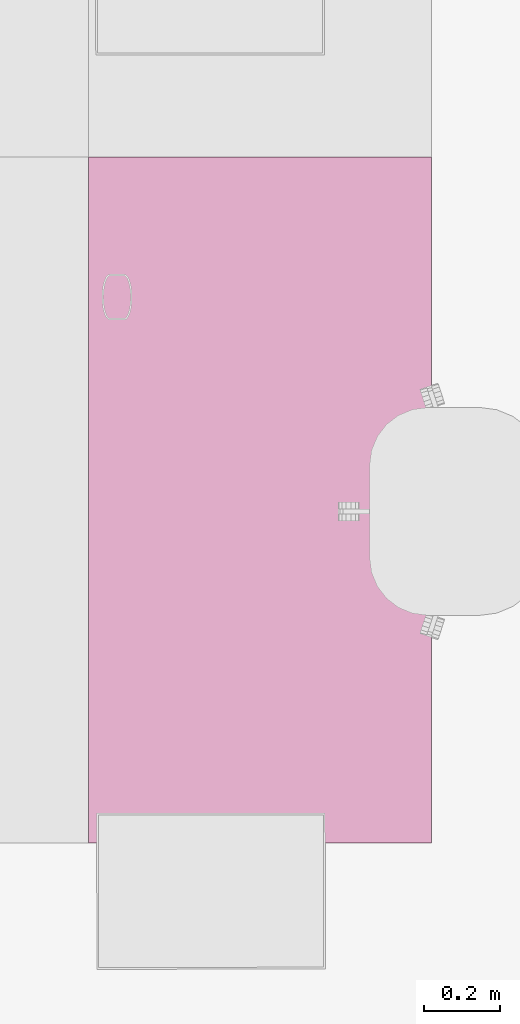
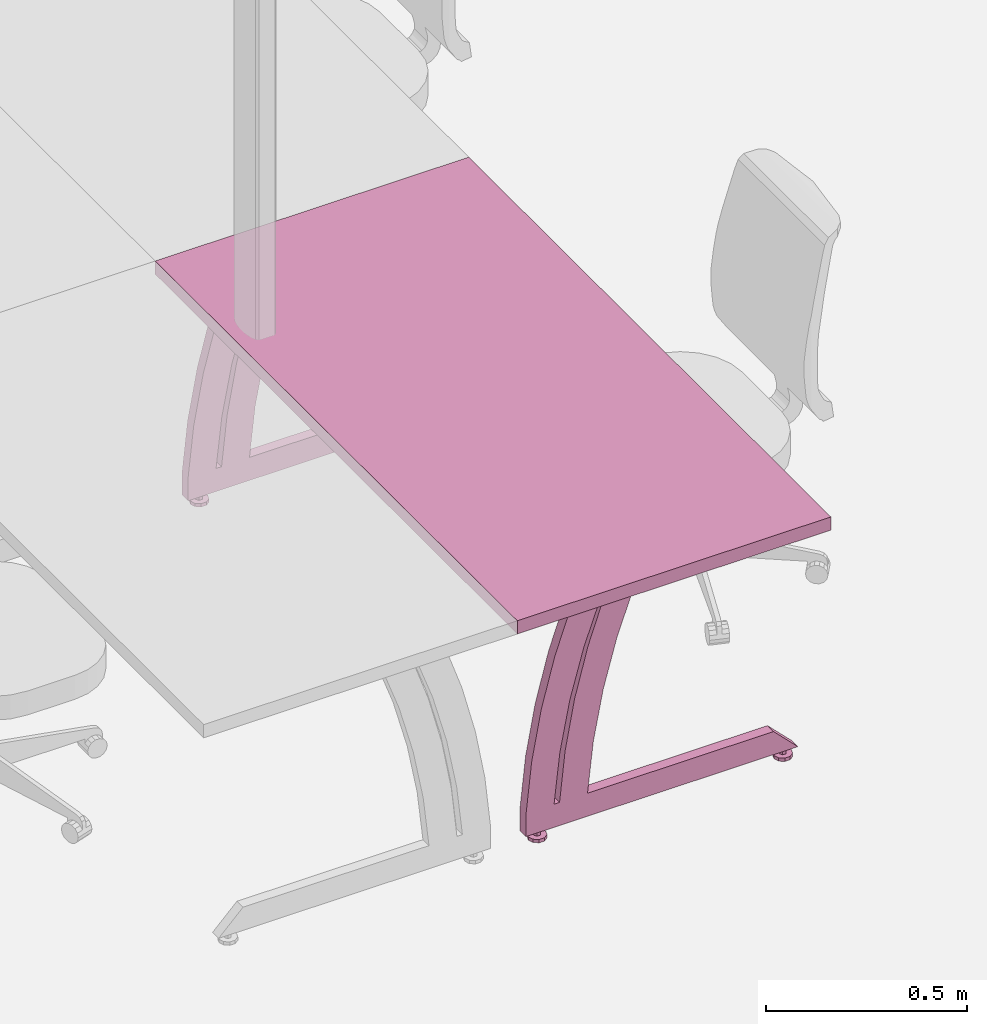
# One storey, part 100 of 128: 1 furnishing.
"""IFC2X3 building model written with IfcOpenShell, lengths in metres."""

from ifc_helpers import new_model, entity, si_unit, converted_unit, derived_unit, direction, frame, origin, place, context, subcontext, project, spatial, faceted_brep, source, transform, mapped, material, type_object, type_shapes, element, save


model = new_model("IFC2X3")

# Units and contexts
model_context = context("Model", 3, precision=1e-05, world=origin(), true_north=direction((6.123031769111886e-17, 1.0)))
body_context = subcontext(model_context, "Body", "Model", "MODEL_VIEW")
ifc_project = project(units=[si_unit("LENGTHUNIT", "METRE"), si_unit("AREAUNIT", "SQUARE_METRE"), converted_unit("PLANEANGLEUNIT", "DEGREE", entity("IfcPlaneAngleMeasure", 0.017453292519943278), si_unit("PLANEANGLEUNIT", "RADIAN"), dimensions=[0, 0, 0, 0, 0, 0, 0]), derived_unit("THERMALTRANSMITTANCEUNIT", [(si_unit("MASSUNIT", "GRAM", prefix="KILO"), 1), (si_unit("THERMODYNAMICTEMPERATUREUNIT", "KELVIN"), -1), (si_unit("TIMEUNIT", "SECOND"), -3)])], contexts=[model_context])

# Site, building, storey
site_placement = place(None, origin())
site = spatial("IfcSite", under=ifc_project, at=site_placement, Name="Default", CompositionType="ELEMENT")
building_placement = place(site_placement, origin())
building = spatial("IfcBuilding", under=site, at=building_placement, CompositionType="ELEMENT")
storey_placement = place(building_placement, origin())
storey = spatial("IfcBuildingStorey", under=building, at=storey_placement, Name="00_RDC CAF", CompositionType="ELEMENT", Elevation=2.4982504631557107e-13)

# Furnishing
ifc_material = material(Name="ARC - Mo - Blanc")
furniture_type = type_object("IfcFurnitureType", Name="Mo_Bureau:Mo_Bureau_1800x900mm", AssemblyPlace="NOTDEFINED", material=ifc_material)
shared_shape = source(origin(), body_context, "Body", "Brep", [
    faceted_brep([(0.05999999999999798, -0.7962325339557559, 0.0), (0.03622358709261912, -0.7885071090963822, 0.0), (0.0407644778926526, -0.7822571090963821, 0.0), (0.045305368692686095, -0.7760071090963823, 0.0), (0.05265268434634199, -0.7736198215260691, 0.0), (0.05999999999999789, -0.7712325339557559, 0.0), (0.0673473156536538, -0.7736198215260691, 0.0), (0.03622358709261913, -0.7962325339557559, 0.0), (0.03622358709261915, -0.8039579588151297, 0.0), (0.040764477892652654, -0.8102079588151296, 0.0), (0.04530536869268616, -0.8164579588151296, 0.0), (0.052652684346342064, -0.8188452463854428, 0.0), (0.05999999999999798, -0.8212325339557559, 0.0), (0.07469463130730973, -0.7760071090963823, 0.0), (0.07923552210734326, -0.7822571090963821, 0.0), (0.08377641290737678, -0.7885071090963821, 0.0), (0.08377641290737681, -0.7962325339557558, 0.0), (0.06734731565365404, -0.8188452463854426, 0.0), (0.07469463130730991, -0.8164579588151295, 0.0), (0.0792355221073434, -0.8102079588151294, 0.0), (0.08377641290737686, -0.8039579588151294, 0.0), (0.05999999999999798, -0.7962325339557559, 0.024999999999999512), (0.059999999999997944, -0.7862325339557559, 0.024999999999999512), (0.05133974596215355, -0.791232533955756, 0.024999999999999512), (0.05133974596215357, -0.801232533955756, 0.024999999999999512), (0.05999999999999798, -0.8062325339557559, 0.024999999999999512), (0.06866025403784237, -0.7912325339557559, 0.024999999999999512), (0.06866025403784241, -0.8012325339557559, 0.024999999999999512), (0.05133974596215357, -0.801232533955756, 0.01000000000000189), (0.05999999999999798, -0.8062325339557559, 0.01000000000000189), (0.05133974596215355, -0.791232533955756, 0.01000000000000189), (0.05999999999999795, -0.7862325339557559, 0.01000000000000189), (0.06866025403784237, -0.7912325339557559, 0.01000000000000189), (0.06866025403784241, -0.8012325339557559, 0.01000000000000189), (0.0599999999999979, -0.7712325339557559, 0.01000000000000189), (0.05554606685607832, -0.77267970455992, 0.01000000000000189), (0.05109213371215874, -0.774126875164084, 0.01000000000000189), (0.045305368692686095, -0.7760071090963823, 0.01000000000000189), (0.0673473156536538, -0.7736198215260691, 0.01000000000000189), (0.07469463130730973, -0.7760071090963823, 0.01000000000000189), (0.07923552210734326, -0.7822571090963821, 0.01000000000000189), (0.08377641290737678, -0.7885071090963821, 0.01000000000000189), (0.08377641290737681, -0.7962325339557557, 0.01000000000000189), (0.08377641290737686, -0.8039579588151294, 0.01000000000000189), (0.0792355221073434, -0.8102079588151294, 0.01000000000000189), (0.07469463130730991, -0.8164579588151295, 0.01000000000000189), (0.0689078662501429, -0.8183381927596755, 0.01000000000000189), (0.06445393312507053, -0.8197853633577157, 0.01000000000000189), (0.05999999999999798, -0.8212325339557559, 0.01000000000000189), (0.052652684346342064, -0.8188452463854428, 0.01000000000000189), (0.04530536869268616, -0.8164579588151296, 0.01000000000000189), (0.03622358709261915, -0.8039579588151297, 0.01000000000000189), (0.040764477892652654, -0.8102079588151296, 0.01000000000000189), (0.04076447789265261, -0.7822571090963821, 0.01000000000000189), (0.03622358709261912, -0.7885071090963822, 0.01000000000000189), (0.03622358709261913, -0.7962325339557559, 0.01000000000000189)], [[[0, 1, 2]], [[0, 2, 3]], [[0, 3, 4]], [[0, 4, 5]], [[0, 5, 6]], [[0, 7, 1]], [[0, 8, 7]], [[0, 9, 8]], [[0, 10, 9]], [[0, 11, 10]], [[0, 12, 11]], [[0, 6, 13]], [[0, 13, 14]], [[0, 14, 15]], [[0, 15, 16]], [[0, 17, 12]], [[0, 18, 17]], [[0, 19, 18]], [[0, 20, 19]], [[0, 16, 20]], [[21, 22, 23]], [[23, 24, 21]], [[24, 25, 21]], [[21, 26, 22]], [[25, 27, 21]], [[26, 21, 27]], [[25, 24, 28, 29]], [[24, 23, 30, 28]], [[23, 22, 31, 30]], [[22, 26, 32, 31]], [[26, 27, 33, 32]], [[27, 25, 29, 33]], [[31, 34, 35]], [[31, 35, 36]], [[31, 36, 37]], [[31, 37, 30]], [[31, 38, 34]], [[31, 39, 38]], [[32, 39, 31]], [[32, 40, 39]], [[32, 41, 40]], [[32, 42, 41]], [[32, 43, 42]], [[32, 33, 43]], [[33, 44, 43]], [[33, 45, 44]], [[33, 29, 45]], [[29, 46, 45]], [[29, 47, 46]], [[29, 48, 47]], [[29, 49, 48]], [[29, 50, 49]], [[29, 28, 50]], [[30, 51, 28]], [[28, 51, 52]], [[28, 52, 50]], [[30, 37, 53]], [[30, 53, 54]], [[30, 54, 55]], [[30, 55, 51]], [[11, 12, 48, 49, 50, 10]], [[8, 9, 10, 50, 52, 51]], [[7, 8, 51, 55, 54, 1]], [[3, 37, 36, 35, 34, 5, 4]], [[54, 53, 37, 3, 2, 1]], [[6, 5, 34, 38, 39, 13]], [[15, 14, 13, 39, 40, 41]], [[16, 15, 41, 42, 43, 20]], [[18, 45, 46, 47, 48, 12, 17]], [[43, 44, 45, 18, 19, 20]]]),
    faceted_brep([(0.05999999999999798, -0.09132706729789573, 0.0), (0.03622358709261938, -0.0836016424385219, 0.0), (0.04076447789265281, -0.07735164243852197, 0.0), (0.04530536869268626, -0.07110164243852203, 0.0), (0.052652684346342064, -0.06871435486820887, 0.0), (0.05999999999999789, -0.06632706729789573, 0.0), (0.06734731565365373, -0.06871435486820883, 0.0), (0.03622358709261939, -0.0913270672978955, 0.0), (0.0362235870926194, -0.09905249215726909, 0.0), (0.04076447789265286, -0.10530249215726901, 0.0), (0.04530536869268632, -0.11155249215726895, 0.0), (0.05265268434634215, -0.11393977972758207, 0.0), (0.05999999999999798, -0.11632706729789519, 0.0), (0.07469463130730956, -0.07110164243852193, 0.0), (0.07923552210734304, -0.07735164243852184, 0.0), (0.08377641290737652, -0.08360164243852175, 0.0), (0.08377641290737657, -0.09132706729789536, 0.0), (0.06734731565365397, -0.113939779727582, 0.0), (0.07469463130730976, -0.11155249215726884, 0.0), (0.07923552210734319, -0.10530249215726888, 0.0), (0.0837764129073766, -0.09905249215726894, 0.0), (0.05999999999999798, -0.09132706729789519, 0.024999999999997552), (0.059999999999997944, -0.0813270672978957, 0.024999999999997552), (0.051339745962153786, -0.08632706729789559, 0.024999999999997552), (0.05133974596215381, -0.09632706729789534, 0.024999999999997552), (0.05999999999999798, -0.10132706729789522, 0.024999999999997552), (0.06866025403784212, -0.08632706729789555, 0.024999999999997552), (0.06866025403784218, -0.09632706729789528, 0.024999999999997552), (0.05133974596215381, -0.09632706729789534, 0.009999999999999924), (0.05999999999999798, -0.10132706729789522, 0.009999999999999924), (0.051339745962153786, -0.08632706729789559, 0.009999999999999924), (0.05999999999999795, -0.0813270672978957, 0.009999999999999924), (0.06866025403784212, -0.08632706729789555, 0.009999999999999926), (0.06866025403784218, -0.09632706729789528, 0.009999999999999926), (0.05999999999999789, -0.06632706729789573, 0.009999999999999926), (0.055546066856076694, -0.06777423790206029, 0.009999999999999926), (0.051092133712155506, -0.06922140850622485, 0.009999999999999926), (0.04530536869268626, -0.07110164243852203, 0.009999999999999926), (0.06734731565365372, -0.06871435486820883, 0.009999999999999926), (0.07469463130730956, -0.07110164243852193, 0.009999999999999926), (0.07923552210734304, -0.07735164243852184, 0.009999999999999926), (0.08377641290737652, -0.08360164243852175, 0.009999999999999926), (0.08377641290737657, -0.09132706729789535, 0.009999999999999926), (0.0837764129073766, -0.09905249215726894, 0.009999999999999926), (0.07923552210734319, -0.10530249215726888, 0.009999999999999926), (0.07469463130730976, -0.11155249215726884, 0.009999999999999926), (0.06890786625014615, -0.11343272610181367, 0.009999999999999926), (0.06445393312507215, -0.11487989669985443, 0.009999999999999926), (0.05999999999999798, -0.11632706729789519, 0.009999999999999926), (0.05265268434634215, -0.11393977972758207, 0.009999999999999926), (0.04530536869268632, -0.11155249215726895, 0.009999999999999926), (0.0362235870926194, -0.09905249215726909, 0.009999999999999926), (0.04076447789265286, -0.10530249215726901, 0.009999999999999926), (0.04076447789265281, -0.07735164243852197, 0.009999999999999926), (0.03622358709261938, -0.0836016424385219, 0.009999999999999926), (0.03622358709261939, -0.0913270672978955, 0.009999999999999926)], [[[0, 1, 2]], [[0, 2, 3]], [[0, 3, 4]], [[0, 4, 5]], [[0, 5, 6]], [[0, 7, 1]], [[0, 8, 7]], [[0, 9, 8]], [[0, 10, 9]], [[0, 11, 10]], [[0, 12, 11]], [[0, 6, 13]], [[0, 13, 14]], [[0, 14, 15]], [[0, 15, 16]], [[0, 17, 12]], [[0, 18, 17]], [[0, 19, 18]], [[0, 20, 19]], [[0, 16, 20]], [[21, 22, 23]], [[23, 24, 21]], [[24, 25, 21]], [[21, 26, 22]], [[25, 27, 21]], [[26, 21, 27]], [[25, 24, 28, 29]], [[24, 23, 30, 28]], [[23, 22, 31, 30]], [[22, 26, 32, 31]], [[26, 27, 33, 32]], [[27, 25, 29, 33]], [[31, 34, 35]], [[31, 35, 36]], [[31, 36, 37]], [[31, 37, 30]], [[31, 38, 34]], [[31, 39, 38]], [[32, 39, 31]], [[32, 40, 39]], [[32, 41, 40]], [[32, 42, 41]], [[32, 43, 42]], [[32, 33, 43]], [[33, 44, 43]], [[33, 45, 44]], [[33, 29, 45]], [[29, 46, 45]], [[29, 47, 46]], [[29, 48, 47]], [[29, 49, 48]], [[29, 50, 49]], [[29, 28, 50]], [[30, 51, 28]], [[28, 51, 52]], [[28, 52, 50]], [[30, 37, 53]], [[30, 53, 54]], [[30, 54, 55]], [[30, 55, 51]], [[11, 12, 48, 49, 50, 10]], [[8, 9, 10, 50, 52, 51]], [[7, 8, 51, 55, 54, 1]], [[3, 37, 36, 35, 34, 5, 4]], [[54, 53, 37, 3, 2, 1]], [[6, 5, 34, 38, 39, 13]], [[15, 14, 13, 39, 40, 41]], [[16, 15, 41, 42, 43, 20]], [[18, 45, 46, 47, 48, 12, 17]], [[43, 44, 45, 18, 19, 20]]]),
    faceted_brep([(0.04499999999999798, -0.22742160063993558, 0.0950000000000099), (0.04499999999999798, -0.24409269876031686, 0.24614112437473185), (0.04499999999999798, -0.27271442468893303, 0.3954808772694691), (0.04499999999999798, -0.3131059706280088, 0.5420758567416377), (0.04499999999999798, -0.3650121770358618, 0.6849999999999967), (0.04499999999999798, -0.2788721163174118, 0.6849999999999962), (0.04499999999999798, -0.2291924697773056, 0.5416912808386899), (0.04499999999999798, -0.1905543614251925, 0.39501969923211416), (0.04499999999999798, -0.16318154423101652, 0.245834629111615), (0.04499999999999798, -0.14723253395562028, 0.09500000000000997), (0.07499999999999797, -0.3650121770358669, 0.6850000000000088), (0.07499999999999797, -0.3131059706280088, 0.5420758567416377), (0.07499999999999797, -0.27271442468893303, 0.3954808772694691), (0.07499999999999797, -0.24409269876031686, 0.24614112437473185), (0.07499999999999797, -0.22742160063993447, 0.09499999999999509), (0.07499999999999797, -0.14723253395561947, 0.0949999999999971), (0.07499999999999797, -0.16318154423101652, 0.245834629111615), (0.07499999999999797, -0.1905543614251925, 0.39501969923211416), (0.07499999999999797, -0.2291924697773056, 0.5416912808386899), (0.07499999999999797, -0.27887211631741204, 0.6849999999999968)], [[[0, 1, 2, 3, 4, 5, 6, 7, 8, 9]], [[10, 11, 12, 13, 14, 15, 16, 17, 18, 19]], [[10, 19, 5, 4]], [[3, 11, 10, 4]], [[2, 12, 11, 3]], [[0, 14, 13, 1]], [[12, 2, 1, 13]], [[15, 14, 0, 9]], [[8, 7, 17, 16]], [[15, 9, 8, 16]], [[6, 5, 19, 18]], [[6, 18, 17, 7]]]),
    faceted_brep([(0.04499999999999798, -0.13142160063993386, 0.09500000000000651), (0.04499999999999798, -0.14809269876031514, 0.24614112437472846), (0.04499999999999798, -0.1767144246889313, 0.39548087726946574), (0.04499999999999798, -0.21710597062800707, 0.5420758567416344), (0.04499999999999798, -0.26901217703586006, 0.6849999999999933), (0.04499999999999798, -0.18287211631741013, 0.6849999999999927), (0.04499999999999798, -0.13319246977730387, 0.5416912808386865), (0.04499999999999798, -0.09455436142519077, 0.3950196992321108), (0.04499999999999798, -0.0671815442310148, 0.2458346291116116), (0.04499999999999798, -0.05123253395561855, 0.09500000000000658), (0.07499999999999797, -0.2690121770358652, 0.6850000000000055), (0.07499999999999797, -0.21710597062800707, 0.5420758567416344), (0.07499999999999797, -0.1767144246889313, 0.39548087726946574), (0.07499999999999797, -0.14809269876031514, 0.24614112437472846), (0.07499999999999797, -0.1314216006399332, 0.09499999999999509), (0.07499999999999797, -0.05123253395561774, 0.09499999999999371), (0.07499999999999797, -0.0671815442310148, 0.2458346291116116), (0.07499999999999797, -0.09455436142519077, 0.3950196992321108), (0.07499999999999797, -0.13319246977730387, 0.5416912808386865), (0.07499999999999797, -0.18287211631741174, 0.684999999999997)], [[[0, 1, 2, 3, 4, 5, 6, 7, 8, 9]], [[10, 11, 12, 13, 14, 15, 16, 17, 18, 19]], [[10, 19, 5, 4]], [[3, 11, 10, 4]], [[2, 12, 11, 3]], [[0, 14, 13, 1]], [[12, 2, 1, 13]], [[15, 14, 0, 9]], [[8, 7, 17, 16]], [[15, 9, 8, 16]], [[6, 5, 19, 18]], [[6, 18, 17, 7]]]),
    faceted_brep([(0.04499999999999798, -0.0512325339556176, 0.0249999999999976), (0.04499999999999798, -0.8312325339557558, 0.0249999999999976), (0.04499999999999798, -0.7612325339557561, 0.09499999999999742), (0.04499999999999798, -0.05123253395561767, 0.09499999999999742), (0.07499999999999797, -0.0512325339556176, 0.0249999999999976), (0.07499999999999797, -0.05123253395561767, 0.09499999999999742), (0.07499999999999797, -0.7612325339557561, 0.09499999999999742), (0.07499999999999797, -0.8312325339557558, 0.0249999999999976)], [[[0, 1, 2, 3]], [[4, 5, 6, 7]], [[5, 4, 0, 3]], [[6, 5, 3, 2]], [[4, 7, 1, 0]], [[7, 6, 2, 1]]]),
    faceted_brep([(1.7399999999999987, -0.7962325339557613, 0.0), (1.71622358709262, -0.7885071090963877, 0.0), (1.7207644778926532, -0.7822571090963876, 0.0), (1.7253053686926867, -0.7760071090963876, 0.0), (1.7326526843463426, -0.7736198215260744, 0.0), (1.7399999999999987, -0.7712325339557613, 0.0), (1.7473473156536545, -0.7736198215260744, 0.0), (1.71622358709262, -0.7962325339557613, 0.0), (1.71622358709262, -0.803957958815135, 0.0), (1.7207644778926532, -0.8102079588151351, 0.0), (1.725305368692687, -0.816457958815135, 0.0), (1.7326526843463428, -0.8188452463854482, 0.0), (1.7399999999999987, -0.8212325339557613, 0.0), (1.7546946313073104, -0.7760071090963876, 0.0), (1.759235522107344, -0.7822571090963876, 0.0), (1.7637764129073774, -0.7885071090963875, 0.0), (1.7637764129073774, -0.7962325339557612, 0.0), (1.7473473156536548, -0.8188452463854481, 0.0), (1.7546946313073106, -0.8164579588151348, 0.0), (1.759235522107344, -0.8102079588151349, 0.0), (1.7637764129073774, -0.8039579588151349, 0.0), (1.7399999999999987, -0.7962325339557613, 0.024999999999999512), (1.7399999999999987, -0.7862325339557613, 0.024999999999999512), (1.731339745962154, -0.7912325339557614, 0.024999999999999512), (1.731339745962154, -0.8012325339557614, 0.024999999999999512), (1.7399999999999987, -0.8062325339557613, 0.024999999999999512), (1.748660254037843, -0.7912325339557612, 0.024999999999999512), (1.748660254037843, -0.8012325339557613, 0.024999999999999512), (1.731339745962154, -0.8012325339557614, 0.01000000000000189), (1.7399999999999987, -0.8062325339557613, 0.01000000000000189), (1.731339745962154, -0.7912325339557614, 0.01000000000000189), (1.7399999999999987, -0.7862325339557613, 0.01000000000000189), (1.748660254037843, -0.7912325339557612, 0.01000000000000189), (1.748660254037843, -0.8012325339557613, 0.01000000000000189), (1.7399999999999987, -0.7712325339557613, 0.01000000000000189), (1.735546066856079, -0.7726797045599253, 0.01000000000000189), (1.7310921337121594, -0.7741268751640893, 0.01000000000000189), (1.7253053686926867, -0.7760071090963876, 0.01000000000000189), (1.7473473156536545, -0.7736198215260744, 0.01000000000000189), (1.7546946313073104, -0.7760071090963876, 0.01000000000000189), (1.759235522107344, -0.7822571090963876, 0.01000000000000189), (1.7637764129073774, -0.7885071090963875, 0.01000000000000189), (1.7637764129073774, -0.7962325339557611, 0.01000000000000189), (1.7637764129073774, -0.8039579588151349, 0.01000000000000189), (1.759235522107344, -0.8102079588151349, 0.01000000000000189), (1.7546946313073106, -0.8164579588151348, 0.01000000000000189), (1.7489078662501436, -0.8183381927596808, 0.01000000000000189), (1.744453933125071, -0.8197853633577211, 0.01000000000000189), (1.7399999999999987, -0.8212325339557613, 0.01000000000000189), (1.7326526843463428, -0.8188452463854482, 0.01000000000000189), (1.725305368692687, -0.816457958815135, 0.01000000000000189), (1.71622358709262, -0.803957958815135, 0.01000000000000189), (1.7207644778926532, -0.8102079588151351, 0.01000000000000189), (1.7207644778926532, -0.7822571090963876, 0.01000000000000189), (1.71622358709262, -0.7885071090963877, 0.01000000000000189), (1.71622358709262, -0.7962325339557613, 0.01000000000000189)], [[[0, 1, 2]], [[0, 2, 3]], [[0, 3, 4]], [[0, 4, 5]], [[0, 5, 6]], [[0, 7, 1]], [[0, 8, 7]], [[0, 9, 8]], [[0, 10, 9]], [[0, 11, 10]], [[0, 12, 11]], [[0, 6, 13]], [[0, 13, 14]], [[0, 14, 15]], [[0, 15, 16]], [[0, 17, 12]], [[0, 18, 17]], [[0, 19, 18]], [[0, 20, 19]], [[0, 16, 20]], [[21, 22, 23]], [[23, 24, 21]], [[24, 25, 21]], [[21, 26, 22]], [[25, 27, 21]], [[26, 21, 27]], [[25, 24, 28, 29]], [[24, 23, 30, 28]], [[23, 22, 31, 30]], [[22, 26, 32, 31]], [[26, 27, 33, 32]], [[27, 25, 29, 33]], [[31, 34, 35]], [[31, 35, 36]], [[31, 36, 37]], [[31, 37, 30]], [[31, 38, 34]], [[31, 39, 38]], [[32, 39, 31]], [[32, 40, 39]], [[32, 41, 40]], [[32, 42, 41]], [[32, 43, 42]], [[32, 33, 43]], [[33, 44, 43]], [[33, 45, 44]], [[33, 29, 45]], [[29, 46, 45]], [[29, 47, 46]], [[29, 48, 47]], [[29, 49, 48]], [[29, 50, 49]], [[29, 28, 50]], [[30, 51, 28]], [[28, 51, 52]], [[28, 52, 50]], [[30, 37, 53]], [[30, 53, 54]], [[30, 54, 55]], [[30, 55, 51]], [[11, 12, 48, 49, 50, 10]], [[8, 9, 10, 50, 52, 51]], [[7, 8, 51, 55, 54, 1]], [[3, 37, 36, 35, 34, 5, 4]], [[54, 53, 37, 3, 2, 1]], [[6, 5, 34, 38, 39, 13]], [[15, 14, 13, 39, 40, 41]], [[16, 15, 41, 42, 43, 20]], [[18, 45, 46, 47, 48, 12, 17]], [[43, 44, 45, 18, 19, 20]]]),
    faceted_brep([(1.7399999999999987, -0.09132706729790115, 0.0), (1.7162235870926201, -0.08360164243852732, 0.0), (1.7207644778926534, -0.07735164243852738, 0.0), (1.725305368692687, -0.07110164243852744, 0.0), (1.7326526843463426, -0.06871435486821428, 0.0), (1.7399999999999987, -0.06632706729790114, 0.0), (1.7473473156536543, -0.06871435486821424, 0.0), (1.7162235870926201, -0.09132706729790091, 0.0), (1.7162235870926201, -0.0990524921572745, 0.0), (1.7207644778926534, -0.10530249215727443, 0.0), (1.725305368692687, -0.11155249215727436, 0.0), (1.7326526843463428, -0.11393977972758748, 0.0), (1.7399999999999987, -0.1163270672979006, 0.0), (1.7546946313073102, -0.07110164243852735, 0.0), (1.7592355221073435, -0.07735164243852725, 0.0), (1.7637764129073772, -0.08360164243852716, 0.0), (1.7637764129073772, -0.09132706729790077, 0.0), (1.7473473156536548, -0.11393977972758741, 0.0), (1.7546946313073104, -0.11155249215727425, 0.0), (1.7592355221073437, -0.10530249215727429, 0.0), (1.7637764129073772, -0.09905249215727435, 0.0), (1.7399999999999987, -0.0913270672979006, 0.024999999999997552), (1.7399999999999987, -0.08132706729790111, 0.024999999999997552), (1.7313397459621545, -0.08632706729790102, 0.024999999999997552), (1.7313397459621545, -0.09632706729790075, 0.024999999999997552), (1.7399999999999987, -0.10132706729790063, 0.024999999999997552), (1.7486602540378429, -0.08632706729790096, 0.024999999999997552), (1.7486602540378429, -0.0963270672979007, 0.024999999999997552), (1.7313397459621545, -0.09632706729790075, 0.009999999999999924), (1.7399999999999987, -0.10132706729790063, 0.009999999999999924), (1.7313397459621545, -0.08632706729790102, 0.009999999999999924), (1.7399999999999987, -0.08132706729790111, 0.009999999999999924), (1.7486602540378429, -0.08632706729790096, 0.009999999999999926), (1.7486602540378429, -0.0963270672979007, 0.009999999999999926), (1.7399999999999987, -0.06632706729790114, 0.009999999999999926), (1.7355460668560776, -0.0677742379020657, 0.009999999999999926), (1.7310921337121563, -0.06922140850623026, 0.009999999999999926), (1.725305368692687, -0.07110164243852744, 0.009999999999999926), (1.7473473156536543, -0.06871435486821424, 0.009999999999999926), (1.7546946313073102, -0.07110164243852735, 0.009999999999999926), (1.7592355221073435, -0.07735164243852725, 0.009999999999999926), (1.7637764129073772, -0.08360164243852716, 0.009999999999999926), (1.7637764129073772, -0.09132706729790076, 0.009999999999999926), (1.7637764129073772, -0.09905249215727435, 0.009999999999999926), (1.7592355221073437, -0.10530249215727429, 0.009999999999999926), (1.7546946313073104, -0.11155249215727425, 0.009999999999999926), (1.7489078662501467, -0.11343272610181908, 0.009999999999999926), (1.7444539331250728, -0.11487989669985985, 0.009999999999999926), (1.7399999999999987, -0.1163270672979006, 0.009999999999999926), (1.7326526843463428, -0.11393977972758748, 0.009999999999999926), (1.725305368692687, -0.11155249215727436, 0.009999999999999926), (1.7162235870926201, -0.0990524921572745, 0.009999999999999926), (1.7207644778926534, -0.10530249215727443, 0.009999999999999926), (1.7207644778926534, -0.07735164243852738, 0.009999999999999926), (1.7162235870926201, -0.08360164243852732, 0.009999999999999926), (1.7162235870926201, -0.09132706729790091, 0.009999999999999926)], [[[0, 1, 2]], [[0, 2, 3]], [[0, 3, 4]], [[0, 4, 5]], [[0, 5, 6]], [[0, 7, 1]], [[0, 8, 7]], [[0, 9, 8]], [[0, 10, 9]], [[0, 11, 10]], [[0, 12, 11]], [[0, 6, 13]], [[0, 13, 14]], [[0, 14, 15]], [[0, 15, 16]], [[0, 17, 12]], [[0, 18, 17]], [[0, 19, 18]], [[0, 20, 19]], [[0, 16, 20]], [[21, 22, 23]], [[23, 24, 21]], [[24, 25, 21]], [[21, 26, 22]], [[25, 27, 21]], [[26, 21, 27]], [[25, 24, 28, 29]], [[24, 23, 30, 28]], [[23, 22, 31, 30]], [[22, 26, 32, 31]], [[26, 27, 33, 32]], [[27, 25, 29, 33]], [[31, 34, 35]], [[31, 35, 36]], [[31, 36, 37]], [[31, 37, 30]], [[31, 38, 34]], [[31, 39, 38]], [[32, 39, 31]], [[32, 40, 39]], [[32, 41, 40]], [[32, 42, 41]], [[32, 43, 42]], [[32, 33, 43]], [[33, 44, 43]], [[33, 45, 44]], [[33, 29, 45]], [[29, 46, 45]], [[29, 47, 46]], [[29, 48, 47]], [[29, 49, 48]], [[29, 50, 49]], [[29, 28, 50]], [[30, 51, 28]], [[28, 51, 52]], [[28, 52, 50]], [[30, 37, 53]], [[30, 53, 54]], [[30, 54, 55]], [[30, 55, 51]], [[11, 12, 48, 49, 50, 10]], [[8, 9, 10, 50, 52, 51]], [[7, 8, 51, 55, 54, 1]], [[3, 37, 36, 35, 34, 5, 4]], [[54, 53, 37, 3, 2, 1]], [[6, 5, 34, 38, 39, 13]], [[15, 14, 13, 39, 40, 41]], [[16, 15, 41, 42, 43, 20]], [[18, 45, 46, 47, 48, 12, 17]], [[43, 44, 45, 18, 19, 20]]]),
    faceted_brep([(1.7249999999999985, -0.22742160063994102, 0.0950000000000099), (1.7249999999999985, -0.24409269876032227, 0.24614112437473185), (1.7249999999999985, -0.2727144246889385, 0.3954808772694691), (1.7249999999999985, -0.3131059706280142, 0.5420758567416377), (1.7249999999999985, -0.3650121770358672, 0.6849999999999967), (1.7249999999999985, -0.27887211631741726, 0.6849999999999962), (1.7249999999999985, -0.229192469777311, 0.5416912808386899), (1.7249999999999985, -0.1905543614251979, 0.39501969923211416), (1.7249999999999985, -0.16318154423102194, 0.245834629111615), (1.7249999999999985, -0.1472325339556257, 0.09500000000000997), (1.7549999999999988, -0.36501217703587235, 0.6850000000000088), (1.7549999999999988, -0.3131059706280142, 0.5420758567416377), (1.7549999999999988, -0.2727144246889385, 0.3954808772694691), (1.7549999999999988, -0.24409269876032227, 0.24614112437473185), (1.7549999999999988, -0.22742160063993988, 0.09499999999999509), (1.7549999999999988, -0.14723253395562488, 0.0949999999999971), (1.7549999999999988, -0.16318154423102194, 0.245834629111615), (1.7549999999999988, -0.1905543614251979, 0.39501969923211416), (1.7549999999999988, -0.229192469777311, 0.5416912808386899), (1.7549999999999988, -0.2788721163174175, 0.6849999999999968)], [[[0, 1, 2, 3, 4, 5, 6, 7, 8, 9]], [[10, 11, 12, 13, 14, 15, 16, 17, 18, 19]], [[10, 19, 5, 4]], [[3, 11, 10, 4]], [[2, 12, 11, 3]], [[0, 14, 13, 1]], [[12, 2, 1, 13]], [[15, 14, 0, 9]], [[8, 7, 17, 16]], [[15, 9, 8, 16]], [[6, 5, 19, 18]], [[6, 18, 17, 7]]]),
    faceted_brep([(1.7249999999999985, -0.13142160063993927, 0.09500000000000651), (1.7249999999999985, -0.14809269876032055, 0.24614112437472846), (1.7249999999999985, -0.17671442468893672, 0.39548087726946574), (1.7249999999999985, -0.2171059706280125, 0.5420758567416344), (1.7249999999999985, -0.2690121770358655, 0.6849999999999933), (1.7249999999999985, -0.18287211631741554, 0.6849999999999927), (1.7249999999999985, -0.13319246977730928, 0.5416912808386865), (1.7249999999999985, -0.09455436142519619, 0.3950196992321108), (1.7249999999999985, -0.06718154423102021, 0.2458346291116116), (1.7249999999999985, -0.051232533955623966, 0.09500000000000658), (1.7549999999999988, -0.2690121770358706, 0.6850000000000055), (1.7549999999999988, -0.2171059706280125, 0.5420758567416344), (1.7549999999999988, -0.17671442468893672, 0.39548087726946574), (1.7549999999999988, -0.14809269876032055, 0.24614112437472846), (1.7549999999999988, -0.1314216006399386, 0.09499999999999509), (1.7549999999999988, -0.051232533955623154, 0.09499999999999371), (1.7549999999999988, -0.06718154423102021, 0.2458346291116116), (1.7549999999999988, -0.09455436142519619, 0.3950196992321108), (1.7549999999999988, -0.13319246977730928, 0.5416912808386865), (1.7549999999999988, -0.18287211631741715, 0.684999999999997)], [[[0, 1, 2, 3, 4, 5, 6, 7, 8, 9]], [[10, 11, 12, 13, 14, 15, 16, 17, 18, 19]], [[10, 19, 5, 4]], [[3, 11, 10, 4]], [[2, 12, 11, 3]], [[0, 14, 13, 1]], [[12, 2, 1, 13]], [[15, 14, 0, 9]], [[8, 7, 17, 16]], [[15, 9, 8, 16]], [[6, 5, 19, 18]], [[6, 18, 17, 7]]]),
    faceted_brep([(1.7249999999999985, -0.051232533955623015, 0.0249999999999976), (1.7249999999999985, -0.8312325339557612, 0.0249999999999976), (1.7249999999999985, -0.7612325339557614, 0.09499999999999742), (1.7249999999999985, -0.051232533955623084, 0.09499999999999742), (1.7549999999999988, -0.051232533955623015, 0.0249999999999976), (1.7549999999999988, -0.051232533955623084, 0.09499999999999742), (1.7549999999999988, -0.7612325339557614, 0.09499999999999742), (1.7549999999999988, -0.8312325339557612, 0.0249999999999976)], [[[0, 1, 2, 3]], [[4, 5, 6, 7]], [[5, 4, 0, 3]], [[6, 5, 3, 2]], [[4, 7, 1, 0]], [[7, 6, 2, 1]]]),
    faceted_brep([(0.0, -0.8999999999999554, 0.685), (0.0, 0.0, 0.685), (1.7999999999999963, 0.0, 0.6849999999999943), (1.7999999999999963, -0.8999999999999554, 0.6849999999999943), (0.0, -0.8999999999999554, 0.7250000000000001), (1.7999999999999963, -0.8999999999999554, 0.7249999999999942), (1.7999999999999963, 0.0, 0.7249999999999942), (0.0, 0.0, 0.7250000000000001)], [[[0, 1, 2, 3]], [[4, 5, 6, 7]], [[5, 4, 0, 3]], [[6, 5, 3, 2]], [[7, 6, 2, 1]], [[4, 7, 1, 0]]]),
])
type_shapes(furniture_type, [shared_shape])
furnishing_placement = place(storey_placement, frame((36.58029972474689, 132.37278506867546, 0.0), z_axis=(0.0, 0.0, 1.0), x_axis=(0.0, 1.0, 0.0)))
element("IfcFurnishingElement", 1, at=furnishing_placement, inside=storey, type_object=furniture_type, material=ifc_material, Name="Mo_Bureau:Mo_Bureau_1800x900mm", ObjectType="Mo_Bureau:Mo_Bureau_1800x900mm", context=body_context, shape_type="MappedRepresentation", body=[
    mapped(shared_shape, transform((0.0, 0.0, 0.0), scale=1.0)),
])

save(model, "model.ifc")
